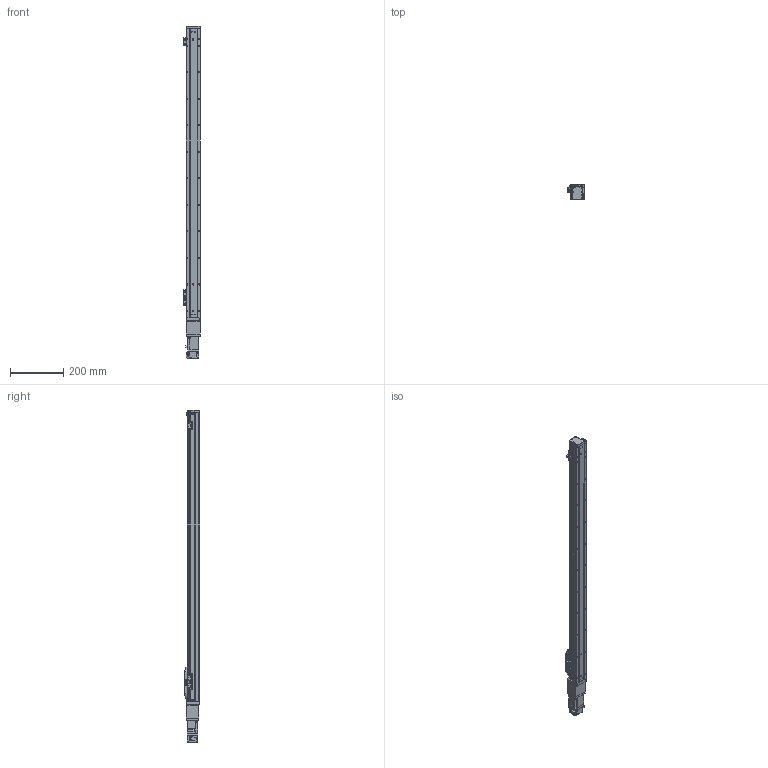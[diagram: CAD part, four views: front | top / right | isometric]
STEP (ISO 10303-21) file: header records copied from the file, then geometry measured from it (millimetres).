
FILE_DESCRIPTION (( 'STEP AP203' ), '1' );
FILE_NAME ('GTH5-950-BC-M10-C4.step', '2023-08-28T00:46:23', ( '微软用户' ), ( '微软中国' ), 'SwSTEP 2.0', 'SolidWorks 2020', '' );
FILE_SCHEMA (( 'CONFIG_CONTROL_DESIGN' ));
Length unit declared in the file: millimetre
Products named in the file (20): GTH50-024; HG-KR13; GBT 70.1-M4×16; GBT 70.1-M2.5×6; GTH5-950-BC-M10-C4; GTH50-003; GTH50-028; GTH50-006; GTH50-013; GTH50-022-1; GTH50-004; GTH50-023; CTHA60-027; GBT 70.3-M3℅6; GBT 70.1-M3℅6; CTHA60-013; BTH-M3X5X6; GBT96.1-2002 3×0.8; CTHA60-006-2_CTHA60-006-1; GTH50-001_950
Assembly tree (60 placements, depth 2):
  GTH5-950-BC-M10-C4
    GTH50-006
    GTH50-004
    GBT 70.3-M3℅6  x6
    BTH-M3X5X6  x8
    GTH50-001_950
    GBT 70.1-M4×16  x8
    GTH50-003
    GTH50-013
    GTH50-023  x3
    GBT 70.1-M3℅6  x12
    GBT96.1-2002 3×0.8  x6
    GTH50-024  x3
    GBT 70.1-M2.5×6  x2
    GTH50-028  x2
    GTH50-022-1
    CTHA60-027
    CTHA60-013
    CTHA60-006-2_CTHA60-006-1
    HG-KR13
Bounding box: 63.8 x 60 x 1252.6 mm (x, y, z)
Volume: 2588930.5 mm3; surface area: 382143.1 mm2
Topology: 62 solids, 62 shells, 2069 faces, 4764 edges, 2910 vertices
Faces by surface type: plane 1105, cylinder 563, cone 235, torus 158, sphere 8
Entity records: 34847 total; most frequent: DIRECTION 5647, CARTESIAN_POINT 5511, ORIENTED_EDGE 5214, EDGE_CURVE 2607, AXIS2_PLACEMENT_3D 1952, VECTOR 1743, LINE 1743, VERTEX_POINT 1650
